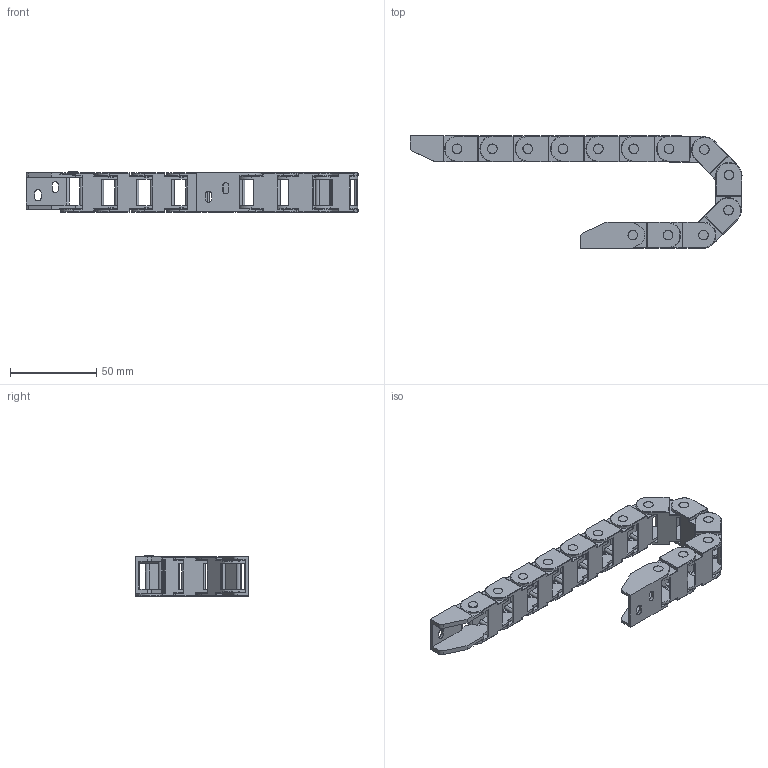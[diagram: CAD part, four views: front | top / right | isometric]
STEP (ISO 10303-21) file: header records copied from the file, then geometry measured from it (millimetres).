
FILE_DESCRIPTION((''),'2;1');
FILE_NAME('10X15-R28_ASM','2022-05-07T15:09:28',('admin'),(''),'CREO PARAMETRIC BY PTC INC, 2021164','CREO PARAMETRIC BY PTC INC, 2021164','');
FILE_SCHEMA(('CONFIG_CONTROL_DESIGN','GEOMETRIC_VALIDATION_PROPERTIES_MIM'));
Length unit declared in the file: millimetre
Products named in the file (4): 10X15R28; 10X15-LTT-1; 10X15-LTT-2; 10X15-R28_ASM
Assembly tree (14 placements, depth 2):
  10X15-R28_ASM
    10X15R28  x12
    10X15-LTT-1
    10X15-LTT-2
Bounding box: 192.66 x 65.27 x 23.65 mm (x, y, z)
Volume: 37476.8 mm3; surface area: 45219.2 mm2
Topology: 14 solids, 14 shells, 2836 faces, 7866 edges, 5084 vertices
Faces by surface type: plane 1972, cylinder 648, bspline 96, torus 72, sphere 48
Entity records: 16073 total; most frequent: CARTESIAN_POINT 2815, ORIENTED_EDGE 1710, DIRECTION 1550, PRESENTATION_STYLE_ASSIGNMENT 1164, STYLED_ITEM 1164, CURVE_STYLE 855, EDGE_CURVE 855, VECTOR 664
